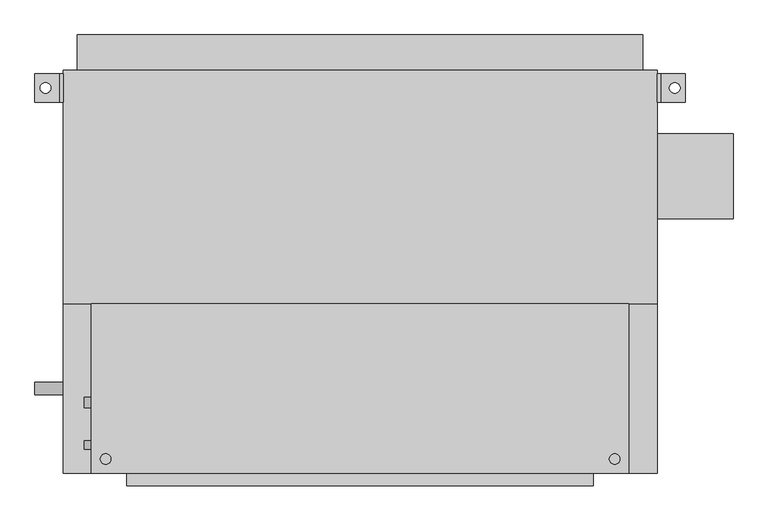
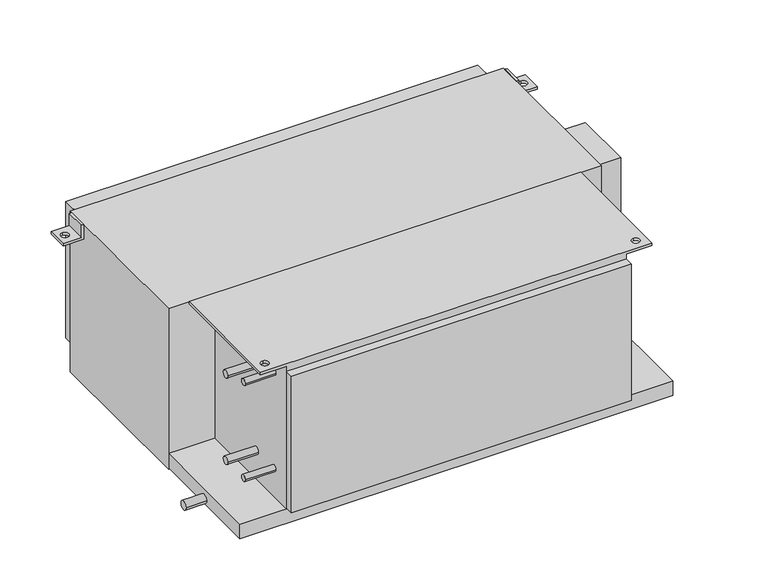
"""IFC4 building model written with IfcOpenShell, lengths in millimetres: proxy geometry, Concealed_High_Capacity_Horizontal_Fan_Coil_Unit_With_Plenum_-_42DCA_-_CARRIER_-_4-Pipe_LH_2022 : Size 14 - 277v/60Hz/1Ph - 6/2 Coil."""

from ifc_helpers import new_model, si_unit, point, frame, frame_2d, origin, place, context, project, spatial, polyline, circle_curve, trimmed, segment, composite_curve, outline, extrude, source, transform, mapped, element, save
from ifc_brep_helpers import plane_surface, revolved_surface, advanced_brep


def mechanical_equipment_aca0d2b0(model_context):
    return source(origin(), model_context, "Body", "SolidModel", [
        advanced_brep(
        [(-330.2, -85.725, 0.0), (-330.2, -390.525, 0.0), (635.0, -390.525, 0.0), (635.0, -85.725, 0.0), (-304.8, -374.65, 0.0), (-304.8, -355.6, 0.0), (609.6, -374.65, 0.0), (609.6, -355.6, 0.0), (571.5, -85.725, -377.825), (571.5, -390.525, -377.825), (-266.7, -390.525, -377.825), (-266.7, -85.725, -377.825), (-266.7, -85.725, -6.35), (-330.2, -85.725, -6.35), (635.0, -85.725, -6.35), (571.5, -85.725, -6.35), (-266.7, -390.525, -6.35), (571.5, -390.525, -6.35), (635.0, -390.525, -6.35), (-330.2, -390.525, -6.35), (-304.8, -355.6, -6.35), (-304.8, -374.65, -6.35), (609.6, -355.6, -6.35), (609.6, -374.65, -6.35)],
        [
            (0, 1),
            (1, 2),
            (2, 3),
            (3, 0),
            (4, 5, circle_curve(frame((-304.8, -365.125, 0.0), z_axis=(0.0, 0.0, -1.0), x_axis=(0.0, 1.0, 0.0)), 9.525)),
            (5, 4, circle_curve(frame((-304.8, -365.125, 0.0), z_axis=(0.0, 0.0, -1.0), x_axis=(0.0, 1.0, 0.0)), 9.525)),
            (6, 7, circle_curve(frame((609.6, -365.125, 0.0), z_axis=(0.0, 0.0, -1.0), x_axis=(0.0, 1.0, 0.0)), 9.525)),
            (7, 6, circle_curve(frame((609.6, -365.125, 0.0), z_axis=(0.0, 0.0, -1.0), x_axis=(0.0, 1.0, 0.0)), 9.525)),
            (8, 9),
            (9, 10),
            (10, 11),
            (11, 8),
            (11, 12),
            (12, 13),
            (13, 0),
            (3, 14),
            (14, 15),
            (15, 8),
            (10, 16),
            (16, 12),
            (9, 17),
            (17, 18),
            (18, 2),
            (1, 19),
            (19, 16),
            (15, 17),
            (19, 13),
            (20, 21, circle_curve(frame((-304.8, -365.125, -6.35), z_axis=(0.0, 0.0, 1.0), x_axis=(0.0, 1.0, 0.0)), 9.525)),
            (21, 20, circle_curve(frame((-304.8, -365.125, -6.35), z_axis=(0.0, 0.0, 1.0), x_axis=(0.0, 1.0, 0.0)), 9.525)),
            (14, 18),
            (22, 23, circle_curve(frame((609.6, -365.125, -6.35), z_axis=(0.0, 0.0, 1.0), x_axis=(0.0, 1.0, 0.0)), 9.525)),
            (23, 22, circle_curve(frame((609.6, -365.125, -6.35), z_axis=(0.0, 0.0, 1.0), x_axis=(0.0, 1.0, 0.0)), 9.525)),
            (4, 21),
            (20, 5),
            (6, 23),
            (22, 7),
        ],
        [
            plane_surface(frame((-266.7, -85.725, 0.0), z_axis=(0.0, 0.0, 1.0), x_axis=(-1.0, 0.0, 0.0))),
            plane_surface(frame((-266.7, -85.725, -377.825), z_axis=(0.0, 0.0, -1.0), x_axis=(1.0, 0.0, 0.0))),
            plane_surface(frame((571.5, -85.725, 0.0), z_axis=(0.0, 1.0, 0.0), x_axis=(0.0, 0.0, -1.0))),
            plane_surface(frame((-266.7, -85.725, 0.0), z_axis=(-1.0, 0.0, 0.0), x_axis=(0.0, 0.0, -1.0))),
            plane_surface(frame((-266.7, -390.525, 0.0), z_axis=(0.0, -1.0, 0.0), x_axis=(0.0, 0.0, -1.0))),
            plane_surface(frame((571.5, -390.525, 0.0), z_axis=(1.0, 0.0, 0.0), x_axis=(0.0, 0.0, -1.0))),
            plane_surface(frame((-330.2, -85.725, -6.35), z_axis=(0.0, 0.0, -1.0), x_axis=(0.0, 1.0, 0.0))),
            plane_surface(frame((-330.2, -85.725, 0.0), z_axis=(-1.0, 0.0, 0.0), x_axis=(0.0, 0.0, -1.0))),
            plane_surface(frame((635.0, -390.525, 0.0), z_axis=(1.0, 0.0, 0.0), x_axis=(0.0, 0.0, -1.0))),
            revolved_surface(polyline([(-304.8, -355.6, -6.35), (-304.8, -355.6, 0.0)]), (-304.8, -365.125, 0.0), (0.0, 0.0, -1.0)),
            revolved_surface(polyline([(609.6, -355.6, -6.35), (609.6, -355.6, 0.0)]), (609.6, -365.125, 0.0), (0.0, 0.0, -1.0)),
        ],
        [
            (0, [[1, 2, 3, 4], [5, 6], [7, 8]]),
            (1, [[9, 10, 11, 12]]),
            (2, [[-12, 13, 14, 15, -4, 16, 17, 18]]),
            (3, [[-11, 19, 20, -13]]),
            (4, [[-10, 21, 22, 23, -2, 24, 25, -19]]),
            (5, [[-9, -18, 26, -21]]),
            (6, [[-14, -20, -25, 27], [28, 29]]),
            (6, [[30, -22, -26, -17], [31, 32]]),
            (7, [[-27, -24, -1, -15]]),
            (8, [[-30, -16, -3, -23]]),
            (9, [[33, -28, 34, -5]]),
            (9, [[-33, -6, -34, -29]]),
            (10, [[35, -31, 36, -7]]),
            (10, [[-35, -8, -36, -32]]),
        ],
    ),
        advanced_brep(
        [(-381.0, 327.025, -38.1), (-431.8, 327.025, -38.1), (-431.8, 327.025, -31.75), (-387.35, 327.025, -31.75), (-387.35, 327.025, 0.0), (-381.0, 327.025, 0.0), (-381.0, 276.225, -38.1), (-381.0, 276.225, 0.0), (-387.35, 276.225, 0.0), (-387.35, 276.225, -31.75), (-431.8, 276.225, -31.75), (-431.8, 276.225, -38.1), (-412.75, 292.1, -38.1), (-412.75, 311.15, -38.1), (-412.75, 311.15, -31.75), (-412.75, 292.1, -31.75)],
        [
            (0, 1),
            (1, 2),
            (2, 3),
            (3, 4),
            (4, 5),
            (5, 0),
            (6, 7),
            (7, 8),
            (8, 9),
            (9, 10),
            (10, 11),
            (11, 6),
            (0, 6),
            (11, 1),
            (12, 13, circle_curve(frame((-412.75, 301.625, -38.1), z_axis=(0.0, 0.0, 1.0), x_axis=(0.0, -1.0, 0.0)), 9.525)),
            (13, 12, circle_curve(frame((-412.75, 301.625, -38.1), z_axis=(0.0, 0.0, 1.0), x_axis=(0.0, -1.0, 0.0)), 9.525)),
            (10, 2),
            (9, 3),
            (14, 15, circle_curve(frame((-412.75, 301.625, -31.75), z_axis=(0.0, 0.0, -1.0), x_axis=(0.0, -1.0, 0.0)), 9.525)),
            (15, 14, circle_curve(frame((-412.75, 301.625, -31.75), z_axis=(0.0, 0.0, -1.0), x_axis=(0.0, -1.0, 0.0)), 9.525)),
            (8, 4),
            (7, 5),
            (14, 13),
            (12, 15),
        ],
        [
            plane_surface(frame((-381.0, 327.025, -38.1), z_axis=(0.0, 1.0, 0.0), x_axis=(-1.0, 0.0, 0.0))),
            plane_surface(frame((-381.0, 276.225, -38.1), z_axis=(0.0, -1.0, 0.0), x_axis=(1.0, 0.0, 0.0))),
            plane_surface(frame((-381.0, 327.025, -38.1), z_axis=(0.0, 0.0, -1.0), x_axis=(0.0, -1.0, 0.0))),
            plane_surface(frame((-431.8, 327.025, -38.1), z_axis=(-1.0, 0.0, 0.0), x_axis=(0.0, -1.0, 0.0))),
            plane_surface(frame((-431.8, 327.025, -31.75), z_axis=(0.0, 0.0, 1.0), x_axis=(0.0, -1.0, 0.0))),
            plane_surface(frame((-387.35, 327.025, -31.75), z_axis=(-1.0, 0.0, 0.0), x_axis=(0.0, -1.0, 0.0))),
            plane_surface(frame((-387.35, 327.025, 0.0), z_axis=(0.0, 0.0, 1.0), x_axis=(0.0, -1.0, 0.0))),
            plane_surface(frame((-381.0, 327.025, 0.0), z_axis=(1.0, 0.0, 0.0), x_axis=(0.0, -1.0, 0.0))),
            revolved_surface(polyline([(-412.75, 292.1, -38.1), (-412.75, 292.1, -31.75)]), (-412.75, 301.625, -31.75), (0.0, 0.0, -1.0)),
        ],
        [
            (0, [[1, 2, 3, 4, 5, 6]]),
            (1, [[7, 8, 9, 10, 11, 12]]),
            (2, [[-1, 13, -12, 14], [15, 16]]),
            (3, [[-2, -14, -11, 17]]),
            (4, [[-3, -17, -10, 18], [19, 20]]),
            (5, [[-4, -18, -9, 21]]),
            (6, [[-5, -21, -8, 22]]),
            (7, [[-6, -22, -7, -13]]),
            (8, [[23, -15, 24, -19]]),
            (8, [[-23, -20, -24, -16]]),
        ],
    ),
        advanced_brep(
        [(685.8, 327.025, -38.1), (685.8, 327.025, 0.0), (692.15, 327.025, 0.0), (692.15, 327.025, -31.75), (736.6, 327.025, -31.75), (736.6, 327.025, -38.1), (685.8, 276.225, -38.1), (736.6, 276.225, -38.1), (736.6, 276.225, -31.75), (692.15, 276.225, -31.75), (692.15, 276.225, 0.0), (685.8, 276.225, 0.0), (717.55, 311.15, -31.75), (717.55, 292.1, -31.75), (717.55, 292.1, -38.1), (717.55, 311.15, -38.1)],
        [
            (0, 1),
            (1, 2),
            (2, 3),
            (3, 4),
            (4, 5),
            (5, 0),
            (6, 7),
            (7, 8),
            (8, 9),
            (9, 10),
            (10, 11),
            (11, 6),
            (0, 6),
            (11, 1),
            (10, 2),
            (9, 3),
            (8, 4),
            (12, 13, circle_curve(frame((717.55, 301.625, -31.75), z_axis=(0.0, 0.0, -1.0), x_axis=(0.0, -1.0, 0.0)), 9.525)),
            (13, 12, circle_curve(frame((717.55, 301.625, -31.75), z_axis=(0.0, 0.0, -1.0), x_axis=(0.0, -1.0, 0.0)), 9.525)),
            (7, 5),
            (14, 15, circle_curve(frame((717.55, 301.625, -38.1), z_axis=(0.0, 0.0, 1.0), x_axis=(0.0, -1.0, 0.0)), 9.525)),
            (15, 14, circle_curve(frame((717.55, 301.625, -38.1), z_axis=(0.0, 0.0, 1.0), x_axis=(0.0, -1.0, 0.0)), 9.525)),
            (12, 15),
            (14, 13),
        ],
        [
            plane_surface(frame((-381.0, 327.025, -38.1), z_axis=(0.0, 1.0, 0.0), x_axis=(-1.0, 0.0, 0.0))),
            plane_surface(frame((-381.0, 276.225, -38.1), z_axis=(0.0, -1.0, 0.0), x_axis=(1.0, 0.0, 0.0))),
            plane_surface(frame((685.8, 327.025, -38.1), z_axis=(-1.0, 0.0, 0.0), x_axis=(0.0, -1.0, 0.0))),
            plane_surface(frame((685.8, 327.025, 0.0), z_axis=(0.0, 0.0, 1.0), x_axis=(0.0, -1.0, 0.0))),
            plane_surface(frame((692.15, 327.025, 0.0), z_axis=(1.0, 0.0, 0.0), x_axis=(0.0, -1.0, 0.0))),
            plane_surface(frame((692.15, 327.025, -31.75), z_axis=(0.0, 0.0, 1.0), x_axis=(0.0, -1.0, 0.0))),
            plane_surface(frame((736.6, 327.025, -31.75), z_axis=(1.0, 0.0, 0.0), x_axis=(0.0, -1.0, 0.0))),
            plane_surface(frame((736.6, 327.025, -38.1), z_axis=(0.0, 0.0, -1.0), x_axis=(0.0, -1.0, 0.0))),
            revolved_surface(polyline([(717.55, 292.1, -38.1), (717.55, 292.1, -31.75)]), (717.55, 301.625, -31.75), (0.0, 0.0, -1.0)),
        ],
        [
            (0, [[1, 2, 3, 4, 5, 6]]),
            (1, [[7, 8, 9, 10, 11, 12]]),
            (2, [[-1, 13, -12, 14]]),
            (3, [[-2, -14, -11, 15]]),
            (4, [[-3, -15, -10, 16]]),
            (5, [[-4, -16, -9, 17], [18, 19]]),
            (6, [[-5, -17, -8, 20]]),
            (7, [[-6, -20, -7, -13], [21, 22]]),
            (8, [[23, -21, 24, -18]]),
            (8, [[-23, -19, -24, -22]]),
        ],
    ),
        extrude(outline(polyline([(-355.6, 396.875), (660.4, 396.875), (660.4, 333.375), (-355.6, 333.375), (-355.6, 396.875)])), frame((0.0, 0.0, -377.825), z_axis=(0.0, 0.0, 1.0), x_axis=(1.0, 0.0, 0.0)), (0.0, 0.0, 1.0), 355.6),
        extrude(outline(composite_curve([segment(trimmed(circle_curve(frame_2d((-263.525, -76.2)), 9.525), [point((-273.05, -76.2))], [point((-254.0, -76.2))], False, "CARTESIAN"), True, "CONTINUOUS"), segment(trimmed(circle_curve(frame_2d((-263.525, -76.2)), 9.525), [point((-254.0, -76.2))], [point((-273.05, -76.2))], False, "CARTESIAN"), True, "CONTINUOUS")], self_intersect=False)), frame((-342.9, 0.0, 0.0), z_axis=(1.0, 0.0, 0.0), x_axis=(0.0, 1.0, 0.0)), (0.0, 0.0, 1.0), 76.2),
        extrude(outline(composite_curve([segment(trimmed(circle_curve(frame_2d((-263.525, -301.625)), 9.525), [point((-273.05, -301.625))], [point((-254.0, -301.625))], False, "CARTESIAN"), True, "CONTINUOUS"), segment(trimmed(circle_curve(frame_2d((-263.525, -301.625)), 9.525), [point((-254.0, -301.625))], [point((-273.05, -301.625))], False, "CARTESIAN"), True, "CONTINUOUS")], self_intersect=False)), frame((-342.9, 0.0, 0.0), z_axis=(1.0, 0.0, 0.0), x_axis=(0.0, 1.0, 0.0)), (0.0, 0.0, 1.0), 76.2),
        extrude(outline(composite_curve([segment(trimmed(circle_curve(frame_2d((-339.725, -50.8)), 7.9375), [point((-347.6625, -50.8))], [point((-331.7875, -50.8))], False, "CARTESIAN"), True, "CONTINUOUS"), segment(trimmed(circle_curve(frame_2d((-339.725, -50.8)), 7.9375), [point((-331.7875, -50.8))], [point((-347.6625, -50.8))], False, "CARTESIAN"), True, "CONTINUOUS")], self_intersect=False)), frame((-342.9, 0.0, 0.0), z_axis=(1.0, 0.0, 0.0), x_axis=(0.0, 1.0, 0.0)), (0.0, 0.0, 1.0), 76.2),
        extrude(outline(composite_curve([segment(trimmed(circle_curve(frame_2d((-339.725, -301.625)), 7.9375), [point((-347.6625, -301.625))], [point((-331.7875, -301.625))], False, "CARTESIAN"), True, "CONTINUOUS"), segment(trimmed(circle_curve(frame_2d((-339.725, -301.625)), 7.9375), [point((-331.7875, -301.625))], [point((-347.6625, -301.625))], False, "CARTESIAN"), True, "CONTINUOUS")], self_intersect=False)), frame((-342.9, 0.0, 0.0), z_axis=(1.0, 0.0, 0.0), x_axis=(0.0, 1.0, 0.0)), (0.0, 0.0, 1.0), 76.2),
        extrude(outline(composite_curve([segment(trimmed(circle_curve(frame_2d((-238.125, -403.225)), 11.1125), [point((-249.2375, -403.225))], [point((-227.0125, -403.225))], False, "CARTESIAN"), True, "CONTINUOUS"), segment(trimmed(circle_curve(frame_2d((-238.125, -403.225)), 11.1125), [point((-227.0125, -403.225))], [point((-249.2375, -403.225))], False, "CARTESIAN"), True, "CONTINUOUS")], self_intersect=False)), frame((-431.8, 0.0, 0.0), z_axis=(1.0, 0.0, 0.0), x_axis=(0.0, 1.0, 0.0)), (0.0, 0.0, 1.0), 50.8),
        extrude(outline(polyline([(822.325, 219.075), (822.325, 66.675), (685.8, 66.675), (685.8, 219.075), (822.325, 219.075)])), frame((0.0, 0.0, -273.05), z_axis=(0.0, 0.0, 1.0), x_axis=(1.0, 0.0, 0.0)), (0.0, 0.0, 1.0), 152.4),
        extrude(outline(polyline([(571.5, -412.75), (-266.7, -412.75), (-266.7, -390.525), (571.5, -390.525), (571.5, -412.75)])), frame((0.0, 0.0, -374.65), z_axis=(0.0, 0.0, 1.0), x_axis=(1.0, 0.0, 0.0)), (0.0, 0.0, 1.0), 355.6),
        extrude(outline(polyline([(685.8, -85.725), (-381.0, -85.725), (-381.0, 333.375), (685.8, 333.375), (685.8, -85.725)])), frame((0.0, 0.0, -419.1), z_axis=(0.0, 0.0, 1.0), x_axis=(1.0, 0.0, 0.0)), (0.0, 0.0, 1.0), 419.1),
        extrude(outline(polyline([(685.8, -85.725), (685.8, -390.525), (-381.0, -390.525), (-381.0, -85.725), (685.8, -85.725)])), frame((0.0, 0.0, -415.925), z_axis=(0.0, 0.0, 1.0), x_axis=(1.0, 0.0, 0.0)), (0.0, 0.0, 1.0), 38.1),
    ])


if __name__ == "__main__":
    model = new_model("IFC4")
    model_context = context("Model", 3, world=origin())
    ifc_project = project(units=[si_unit("LENGTHUNIT", "METRE", prefix="MILLI")], contexts=[model_context])
    site = spatial("IfcSite", under=ifc_project)
    building = spatial("IfcBuilding", under=site)
    placement = place(None, origin())
    mechanical_equipment_shape = mechanical_equipment_aca0d2b0(model_context)
    element("IfcBuildingElementProxy", 1, Name="Concealed_High_Capacity_Horizontal_Fan_Coil_Unit_With_Plenum_-_42DCA_-_CARRIER_-_4-Pipe_LH_2022 : Size 14 - 277v/60Hz/1Ph - 6/2 Coil", ObjectType="Concealed_High_Capacity_Horizontal_Fan_Coil_Unit_With_Plenum_-_42DCA_-_CARRIER_-_4-Pipe_LH_2022 : Size 14 - 277v/60Hz/1Ph - 6/2 Coil", at=placement, inside=building, context=model_context, shape_type="MappedRepresentation", body=[
        mapped(mechanical_equipment_shape, transform((0.0, 0.0, 0.0), x_axis=(1.0, 0.0, 0.0), y_axis=(0.0, 1.0, 0.0), z_axis=(0.0, 0.0, 1.0))),
    ])
    save(model, "model.ifc")
